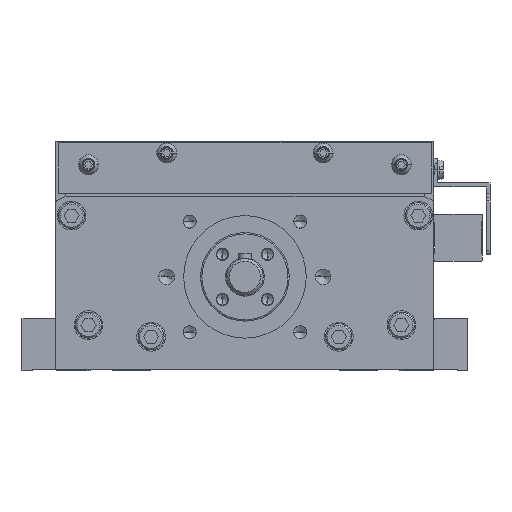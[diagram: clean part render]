
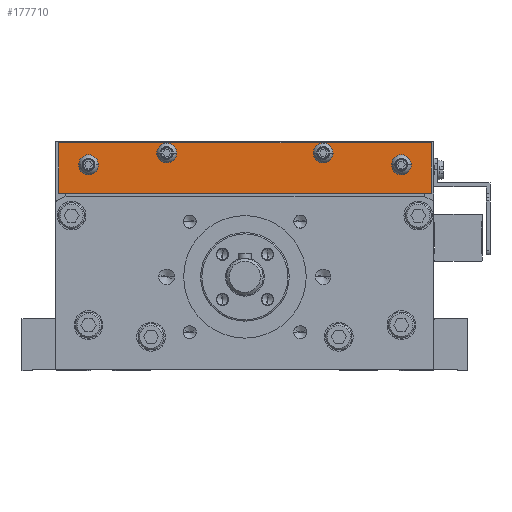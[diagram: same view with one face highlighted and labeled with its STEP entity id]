
A CAD part, front view. The second image highlights one B-rep face of the part: STEP entity #177710.
In plain terms, the highlighted planar face has unit normal (0, -1, 0) as drawn and (0, 1, 0) by its records, which use the part's own axes.
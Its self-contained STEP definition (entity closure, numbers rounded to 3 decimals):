
#176720=CARTESIAN_POINT('',(0.,0.,0.));
#176730=DIRECTION('',(0.,-1.,0.));
#176740=DIRECTION('',(1.,0.,0.));
#176750=AXIS2_PLACEMENT_3D('',#176720,#176730,#176740);
#176760=PLANE('',#176750);
#176770=CARTESIAN_POINT('',(30.,0.,
4.5));
#176780=DIRECTION('',(0.,1.,0.));
#176790=DIRECTION('',(-1.,0.,0.));
#176800=AXIS2_PLACEMENT_3D('',#176770,#176780,#176790);
#176810=CIRCLE('',#176800,2.1);
#176820=CARTESIAN_POINT('',(27.9,0.,4.5));
#176830=VERTEX_POINT('',#176820);
#176840=CARTESIAN_POINT('',(32.1,0.,4.5));
#176850=VERTEX_POINT('',#176840);
#176860=EDGE_CURVE('',#176830,#176850,#176810,.T.);
#176870=ORIENTED_EDGE('',*,*,#176860,.F.);
#176880=EDGE_CURVE('',#176850,#176830,#176810,.T.);
#176890=ORIENTED_EDGE('',*,*,#176880,.F.);
#176900=EDGE_LOOP('',(#176890,#176870));
#176910=FACE_BOUND('',#176900,.T.);
#176920=CARTESIAN_POINT('',(0.,0.,0.));
#176930=DIRECTION('',(0.,-1.,0.));
#176940=DIRECTION('',(1.,0.,0.));
#176950=AXIS2_PLACEMENT_3D('',#176920,#176930,#176940);
#176960=CIRCLE('',#176950,2.1);
#176970=CARTESIAN_POINT('',(2.1,0.,0.));
#176980=VERTEX_POINT('',#176970);
#176990=CARTESIAN_POINT('',(-2.1,0.,
0.));
#177000=VERTEX_POINT('',#176990);
#177010=EDGE_CURVE('',#176980,#177000,#176960,.T.);
#177020=ORIENTED_EDGE('',*,*,#177010,.T.);
#177030=EDGE_CURVE('',#177000,#176980,#176960,.T.);
#177040=ORIENTED_EDGE('',*,*,#177030,.T.);
#177050=EDGE_LOOP('',(#177040,#177020));
#177060=FACE_BOUND('',#177050,.T.);
#177070=CARTESIAN_POINT('',(120.,0.,
0.));
#177080=DIRECTION('',(0.,-1.,0.));
#177090=DIRECTION('',(1.,0.,0.));
#177100=AXIS2_PLACEMENT_3D('',#177070,#177080,#177090);
#177110=CIRCLE('',#177100,2.1);
#177120=CARTESIAN_POINT('',(122.1,0.,
0.));
#177130=VERTEX_POINT('',#177120);
#177140=CARTESIAN_POINT('',(117.9,0.,
0.));
#177150=VERTEX_POINT('',#177140);
#177160=EDGE_CURVE('',#177130,#177150,#177110,.T.);
#177170=ORIENTED_EDGE('',*,*,#177160,.T.);
#177180=EDGE_CURVE('',#177150,#177130,#177110,.T.);
#177190=ORIENTED_EDGE('',*,*,#177180,.T.);
#177200=EDGE_LOOP('',(#177190,#177170));
#177210=FACE_BOUND('',#177200,.T.);
#177220=CARTESIAN_POINT('',(90.,0.,
4.5));
#177230=DIRECTION('',(0.,1.,0.));
#177240=DIRECTION('',(-1.,0.,0.));
#177250=AXIS2_PLACEMENT_3D('',#177220,#177230,#177240);
#177260=CIRCLE('',#177250,2.1);
#177270=CARTESIAN_POINT('',(87.9,0.,4.5));
#177280=VERTEX_POINT('',#177270);
#177290=CARTESIAN_POINT('',(92.1,0.,4.5));
#177300=VERTEX_POINT('',#177290);
#177310=EDGE_CURVE('',#177280,#177300,#177260,.T.);
#177320=ORIENTED_EDGE('',*,*,#177310,.F.);
#177330=EDGE_CURVE('',#177300,#177280,#177260,.T.);
#177340=ORIENTED_EDGE('',*,*,#177330,.F.);
#177350=EDGE_LOOP('',(#177340,#177320));
#177360=FACE_BOUND('',#177350,.T.);
#177370=CARTESIAN_POINT('',(131.5,0.,
0.));
#177380=DIRECTION('',(0.,0.,1.));
#177390=VECTOR('',#177380,1.);
#177400=LINE('',#177370,#177390);
#177410=CARTESIAN_POINT('',(131.5,0.,
-11.));
#177420=VERTEX_POINT('',#177410);
#177430=CARTESIAN_POINT('',(131.5,0.,8.5)
);
#177440=VERTEX_POINT('',#177430);
#177450=EDGE_CURVE('',#177420,#177440,#177400,.T.);
#177460=ORIENTED_EDGE('',*,*,#177450,.F.);
#177470=CARTESIAN_POINT('',(0.,0.,8.5));
#177480=DIRECTION('',(1.,0.,0.));
#177490=VECTOR('',#177480,1.);
#177500=LINE('',#177470,#177490);
#177510=CARTESIAN_POINT('',(-11.5,0.,
8.5));
#177520=VERTEX_POINT('',#177510);
#177530=EDGE_CURVE('',#177520,#177440,#177500,.T.);
#177540=ORIENTED_EDGE('',*,*,#177530,.T.);
#177550=CARTESIAN_POINT('',(-11.5,0.,0.));
#177560=DIRECTION('',(0.,0.,1.));
#177570=VECTOR('',#177560,1.);
#177580=LINE('',#177550,#177570);
#177590=CARTESIAN_POINT('',(-11.5,0.,
-11.));
#177600=VERTEX_POINT('',#177590);
#177610=EDGE_CURVE('',#177600,#177520,#177580,.T.);
#177620=ORIENTED_EDGE('',*,*,#177610,.T.);
#177630=CARTESIAN_POINT('',(0.,0.,-11.));
#177640=DIRECTION('',(1.,0.,0.));
#177650=VECTOR('',#177640,1.);
#177660=LINE('',#177630,#177650);
#177670=EDGE_CURVE('',#177600,#177420,#177660,.T.);
#177680=ORIENTED_EDGE('',*,*,#177670,.F.);
#177690=EDGE_LOOP('',(#177680,#177620,#177540,#177460));
#177700=FACE_OUTER_BOUND('',#177690,.T.);
#177710=ADVANCED_FACE('',(#176910,#177060,#177210,#177360,#177700),
#176760,.F.);
